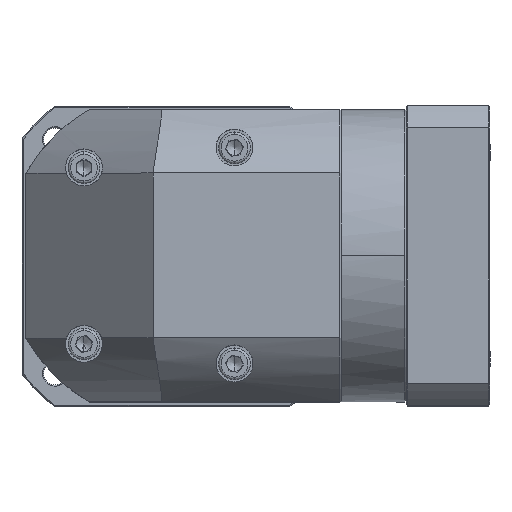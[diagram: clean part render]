
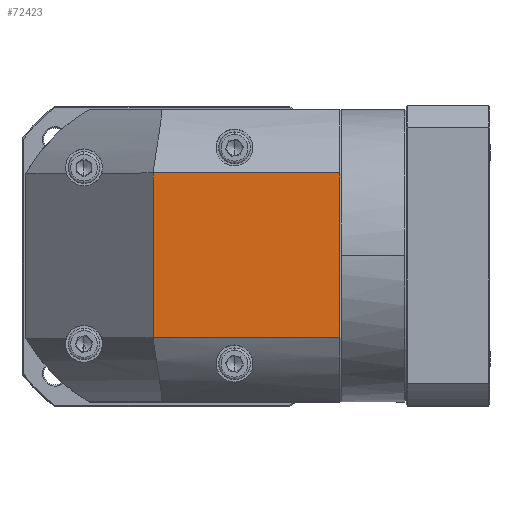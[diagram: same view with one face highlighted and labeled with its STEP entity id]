
A CAD part, top view. The second image highlights one B-rep face of the part: STEP entity #72423.
In plain terms, the highlighted planar face has unit normal (0, 0, 1).
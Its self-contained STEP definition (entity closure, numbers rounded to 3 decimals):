
#3152 = CARTESIAN_POINT ( 'NONE',  ( 42.232, 94.358, 60.212 ) ) ;
#8293 = CARTESIAN_POINT ( 'NONE',  ( 42.232, 119.458, 60.212 ) ) ;
#10500 = DIRECTION ( 'NONE',  ( 1., 0., 0. ) ) ;
#18311 = EDGE_CURVE ( 'NONE', #110883, #55487, #74135, .T. ) ;
#21308 = VECTOR ( 'NONE', #107771, 1000. ) ;
#22962 = CARTESIAN_POINT ( 'NONE',  ( 115.632, 29.558, 60.212 ) ) ;
#25064 = FACE_OUTER_BOUND ( 'NONE', #126563, .T. ) ;
#32339 = EDGE_CURVE ( 'NONE', #46784, #110883, #113606, .T. ) ;
#32451 = DIRECTION ( 'NONE',  ( 0., 0., -1. ) ) ;
#33467 = ORIENTED_EDGE ( 'NONE', *, *, #71447, .F. ) ;
#37304 = LINE ( 'NONE', #8293, #89122 ) ;
#38285 = ORIENTED_EDGE ( 'NONE', *, *, #117323, .F. ) ;
#46527 = VECTOR ( 'NONE', #62049, 1000. ) ;
#46784 = VERTEX_POINT ( 'NONE', #129227 ) ;
#55487 = VERTEX_POINT ( 'NONE', #113512 ) ;
#58400 = ORIENTED_EDGE ( 'NONE', *, *, #18311, .F. ) ;
#62049 = DIRECTION ( 'NONE',  ( -1., 0., 0. ) ) ;
#63688 = CARTESIAN_POINT ( 'NONE',  ( 49.732, 61.958, 60.212 ) ) ;
#68854 = ORIENTED_EDGE ( 'NONE', *, *, #32339, .F. ) ;
#71447 = EDGE_CURVE ( 'NONE', #101435, #46784, #79872, .T. ) ;
#72423 = ADVANCED_FACE ( 'NONE', ( #25064 ), #82223, .F. ) ;
#74135 = LINE ( 'NONE', #122625, #46527 ) ;
#79872 = LINE ( 'NONE', #81578, #104225 ) ;
#81578 = CARTESIAN_POINT ( 'NONE',  ( -7.768, 94.358, 60.212 ) ) ;
#82223 = PLANE ( 'NONE',  #101893 ) ;
#89122 = VECTOR ( 'NONE', #92928, 1000. ) ;
#92928 = DIRECTION ( 'NONE',  ( 0., 1., 0. ) ) ;
#101435 = VERTEX_POINT ( 'NONE', #3152 ) ;
#101893 = AXIS2_PLACEMENT_3D ( 'NONE', #63688, #32451, #106580 ) ;
#104225 = VECTOR ( 'NONE', #10500, 1000. ) ;
#106580 = DIRECTION ( 'NONE',  ( 0., -1., 0. ) ) ;
#107771 = DIRECTION ( 'NONE',  ( 0., -1., 0. ) ) ;
#110883 = VERTEX_POINT ( 'NONE', #22962 ) ;
#113512 = CARTESIAN_POINT ( 'NONE',  ( 42.232, 29.558, 60.212 ) ) ;
#113606 = LINE ( 'NONE', #118661, #21308 ) ;
#117323 = EDGE_CURVE ( 'NONE', #55487, #101435, #37304, .T. ) ;
#118661 = CARTESIAN_POINT ( 'NONE',  ( 115.632, 119.458, 60.212 ) ) ;
#122625 = CARTESIAN_POINT ( 'NONE',  ( -7.768, 29.558, 60.212 ) ) ;
#126563 = EDGE_LOOP ( 'NONE', ( #33467, #38285, #58400, #68854 ) ) ;
#129227 = CARTESIAN_POINT ( 'NONE',  ( 115.632, 94.358, 60.212 ) ) ;
